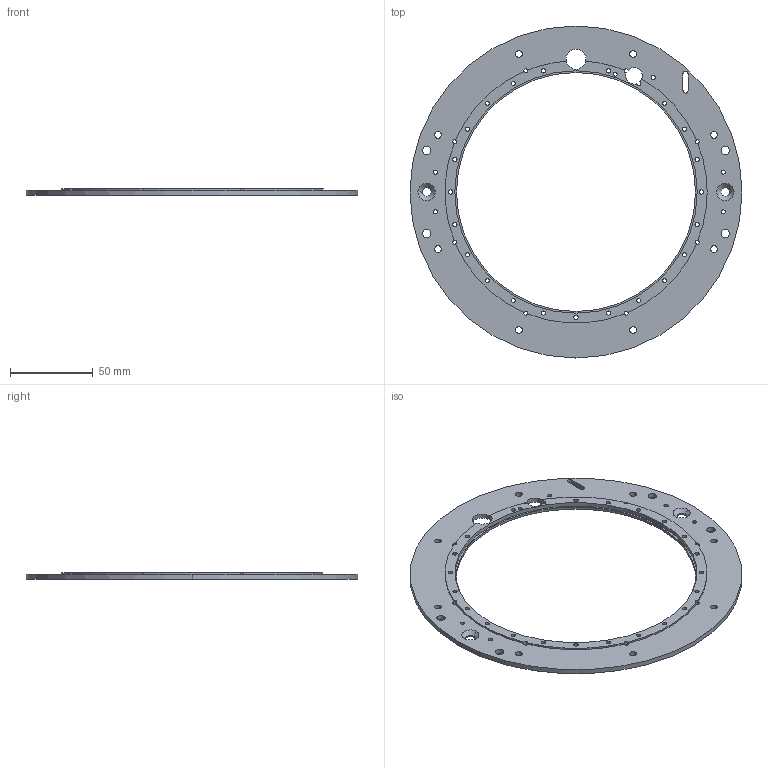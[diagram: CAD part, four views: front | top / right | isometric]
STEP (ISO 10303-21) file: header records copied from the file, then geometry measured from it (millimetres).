
FILE_DESCRIPTION (( 'STEP AP203' ), '1' );
FILE_NAME ('main-plate.STEP', '2024-07-01T06:42:08', ( '' ), ( '' ), 'SwSTEP 2.0', 'SolidWorks 2021', '' );
FILE_SCHEMA (( 'CONFIG_CONTROL_DESIGN' ));
Length unit declared in the file: millimetre
Products named in the file (1): main-plate
Bounding box: 200 x 200 x 4 mm (x, y, z)
Volume: 45288.3 mm3; surface area: 35095.2 mm2
Topology: 1 solids, 1 shells, 135 faces, 416 edges, 276 vertices
Faces by surface type: cylinder 125, plane 6, cone 4
Entity records: 5099 total; most frequent: DIRECTION 960, ORIENTED_EDGE 832, CARTESIAN_POINT 828, EDGE_CURVE 416, AXIS2_PLACEMENT_3D 408, VERTEX_POINT 276, CIRCLE 272, EDGE_LOOP 234
